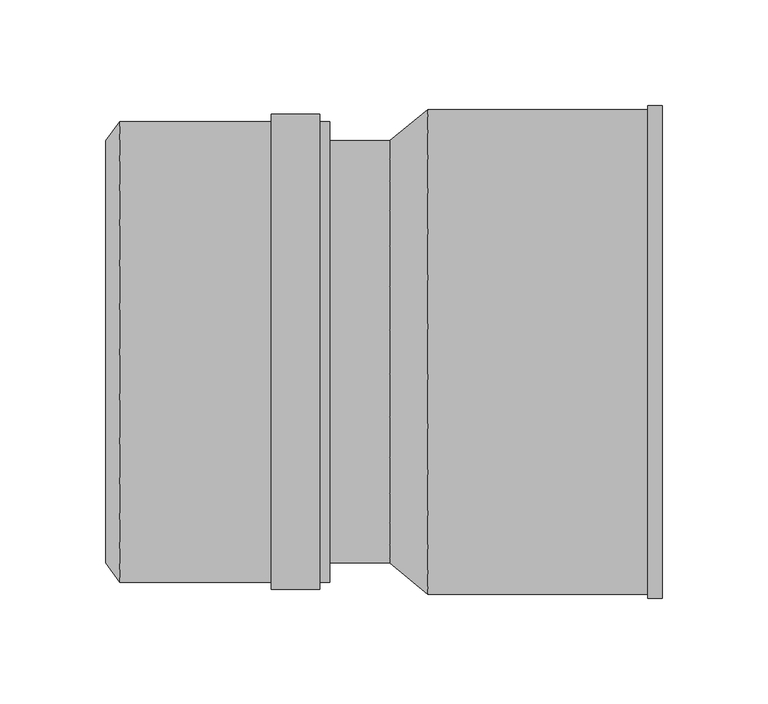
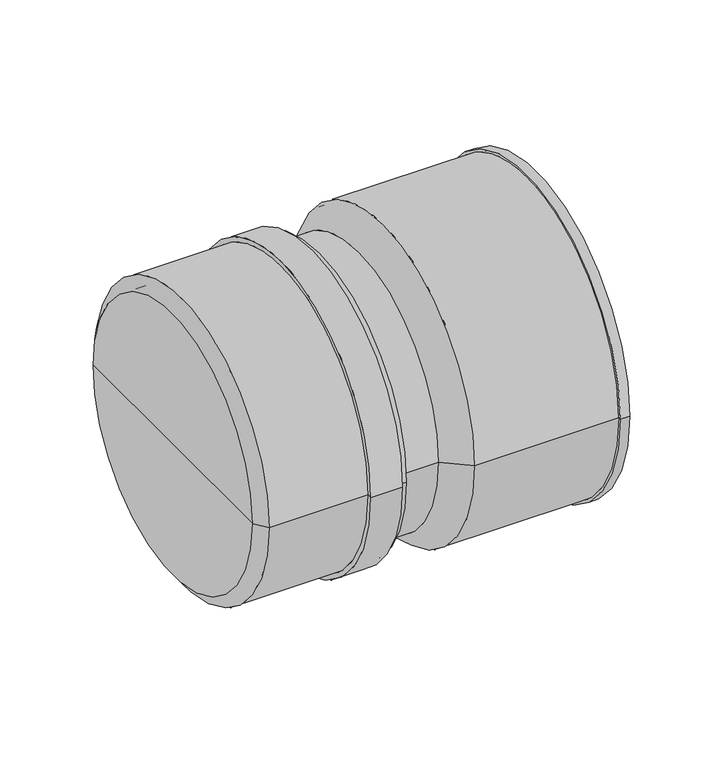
"""IFC4 building model written with IfcOpenShell, lengths in millimetres: pipe fitting geometry, pf_KGUG : pf_KGUG."""

from ifc_helpers import new_model, si_unit, point, frame, origin, origin_2d, place, context, project, spatial, polyline, circle_curve, trimmed, segment, composite_curve, outline, extrude, source, transform, mapped, element, save
from ifc_brep_helpers import plane_surface, cylinder_surface, revolved_surface, advanced_brep


def pipe_fitting_e1511a6a(model_context):
    return source(origin(), model_context, "Body", "SolidModel", [
        advanced_brep(
        [(-134.4, -100.0, 0.0), (-134.4, 100.0, 0.0), (-127.7, 109.1, 0.0), (-127.7, -109.1, 0.0), (-134.4, 0.0, 0.0), (-28.4, -109.1, 0.0), (-28.4, 109.1, 0.0), (-28.4, 100.0, 0.0), (-28.4, -100.0, 0.0), (-33.2, -109.1, 0.0), (-33.2, 109.1, 0.0), (-33.2, -112.5, 0.0), (-33.2, 112.5, 0.0), (-56.0, -112.5, 0.0), (-56.0, 112.5, 0.0), (-56.0, -109.1, 0.0), (-56.0, 109.1, 0.0), (-127.7, -100.0, 0.0), (-127.7, 100.0, 0.0), (-127.7, 0.0, 0.0)],
        [
            (0, 1, circle_curve(frame((-134.4, 0.0, 0.0), z_axis=(1.0, 0.0, 0.0), x_axis=(0.0, 1.0, 0.0)), 100.0)),
            (1, 2),
            (2, 3, circle_curve(frame((-127.7, 0.0, 0.0), z_axis=(-1.0, 0.0, 0.0), x_axis=(0.0, 1.0, 0.0)), 109.1)),
            (3, 0),
            (1, 0, circle_curve(frame((-134.4, 0.0, 0.0), z_axis=(1.0, 0.0, 0.0), x_axis=(0.0, 1.0, 0.0)), 100.0)),
            (3, 2, circle_curve(frame((-127.7, 0.0, 0.0), z_axis=(-1.0, 0.0, 0.0), x_axis=(0.0, 1.0, 0.0)), 109.1)),
            (4, 1),
            (0, 4),
            (5, 6, circle_curve(frame((-28.4, 0.0, 0.0), z_axis=(1.0, 0.0, 0.0), x_axis=(0.0, 1.0, 0.0)), 109.1)),
            (6, 7),
            (7, 8, circle_curve(frame((-28.4, 0.0, 0.0), z_axis=(-1.0, 0.0, 0.0), x_axis=(0.0, 1.0, 0.0)), 100.0)),
            (8, 5),
            (6, 5, circle_curve(frame((-28.4, 0.0, 0.0), z_axis=(1.0, 0.0, 0.0), x_axis=(0.0, 1.0, 0.0)), 109.1)),
            (8, 7, circle_curve(frame((-28.4, 0.0, 0.0), z_axis=(-1.0, 0.0, 0.0), x_axis=(0.0, 1.0, 0.0)), 100.0)),
            (9, 10, circle_curve(frame((-33.2, 0.0, 0.0), z_axis=(1.0, 0.0, 0.0), x_axis=(0.0, 1.0, 0.0)), 109.1)),
            (10, 6),
            (5, 9),
            (10, 9, circle_curve(frame((-33.2, 0.0, 0.0), z_axis=(1.0, 0.0, 0.0), x_axis=(0.0, 1.0, 0.0)), 109.1)),
            (11, 12, circle_curve(frame((-33.2, 0.0, 0.0), z_axis=(1.0, 0.0, 0.0), x_axis=(0.0, 1.0, 0.0)), 112.5)),
            (12, 10),
            (9, 11),
            (12, 11, circle_curve(frame((-33.2, 0.0, 0.0), z_axis=(1.0, 0.0, 0.0), x_axis=(0.0, 1.0, 0.0)), 112.5)),
            (13, 14, circle_curve(frame((-56.0, 0.0, 0.0), z_axis=(1.0, 0.0, 0.0), x_axis=(0.0, 1.0, 0.0)), 112.5)),
            (14, 12),
            (11, 13),
            (14, 13, circle_curve(frame((-56.0, 0.0, 0.0), z_axis=(1.0, 0.0, 0.0), x_axis=(0.0, 1.0, 0.0)), 112.5)),
            (15, 16, circle_curve(frame((-56.0, 0.0, 0.0), z_axis=(1.0, 0.0, 0.0), x_axis=(0.0, 1.0, 0.0)), 109.1)),
            (16, 14),
            (13, 15),
            (16, 15, circle_curve(frame((-56.0, 0.0, 0.0), z_axis=(1.0, 0.0, 0.0), x_axis=(0.0, 1.0, 0.0)), 109.1)),
            (2, 16),
            (15, 3),
            (17, 18, circle_curve(frame((-127.7, 0.0, 0.0), z_axis=(1.0, 0.0, 0.0), x_axis=(0.0, 1.0, 0.0)), 100.0)),
            (18, 19),
            (19, 17),
            (18, 17, circle_curve(frame((-127.7, 0.0, 0.0), z_axis=(1.0, 0.0, 0.0), x_axis=(0.0, 1.0, 0.0)), 100.0)),
            (7, 18),
            (17, 8),
        ],
        [
            revolved_surface(polyline([(-127.7, 109.1, 0.0), (-134.4, 100.0, 0.0)]), (-134.4, 0.0, 0.0), (-1.0, 0.0, 0.0)),
            plane_surface(frame((-134.4, 0.0, 0.0), z_axis=(-1.0, 0.0, 0.0), x_axis=(0.0, 1.0, 0.0))),
            plane_surface(frame((-28.4, 0.0, 0.0), z_axis=(1.0, 0.0, 0.0), x_axis=(0.0, 1.0, 0.0))),
            cylinder_surface(frame((-134.4, 0.0, 0.0), z_axis=(-1.0, 0.0, 0.0), x_axis=(0.0, 1.0, 0.0)), 109.1),
            plane_surface(frame((-33.2, 0.0, 0.0), z_axis=(1.0, 0.0, 0.0), x_axis=(0.0, 1.0, 0.0))),
            cylinder_surface(frame((-134.4, 0.0, 0.0), z_axis=(-1.0, 0.0, 0.0), x_axis=(0.0, 1.0, 0.0)), 112.5),
            plane_surface(frame((-56.0, 0.0, 0.0), z_axis=(-1.0, 0.0, 0.0), x_axis=(0.0, 1.0, 0.0))),
            plane_surface(frame((-127.7, 0.0, 0.0), z_axis=(1.0, 0.0, 0.0), x_axis=(0.0, 1.0, 0.0))),
            revolved_surface(polyline([(-127.7, 100.0, 0.0), (-28.400000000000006, 100.0, 0.0)]), (-134.4, 0.0, 0.0), (-1.0, 0.0, 0.0)),
        ],
        [
            (0, [[1, 2, 3, 4]]),
            (0, [[5, -4, 6, -2]]),
            (1, [[7, -1, 8]]),
            (1, [[-8, -5, -7]]),
            (2, [[9, 10, 11, 12]]),
            (2, [[13, -12, 14, -10]]),
            (3, [[15, 16, -9, 17]]),
            (3, [[18, -17, -13, -16]]),
            (4, [[19, 20, -15, 21]]),
            (4, [[22, -21, -18, -20]]),
            (5, [[23, 24, -19, 25]]),
            (5, [[26, -25, -22, -24]]),
            (6, [[27, 28, -23, 29]]),
            (6, [[30, -29, -26, -28]]),
            (3, [[-3, 31, -27, 32]]),
            (3, [[-6, -32, -30, -31]]),
            (7, [[33, 34, 35]]),
            (7, [[36, -35, -34]]),
            (8, [[-11, 37, -33, 38]]),
            (8, [[-14, -38, -36, -37]]),
        ],
    ),
        extrude(outline(composite_curve([segment(trimmed(circle_curve(origin_2d(), 100.0), [point((-100.0, 0.0))], [point((100.0, 0.0))], False, "CARTESIAN"), True, "CONTINUOUS"), segment(trimmed(circle_curve(origin_2d(), 100.0), [point((100.0, 0.0))], [point((-100.0, 0.0))], False, "CARTESIAN"), True, "CONTINUOUS")], self_intersect=False)), frame((-28.4, 0.0, 0.0), z_axis=(1.0, 0.0, 0.0), x_axis=(0.0, 1.0, 0.0)), (0.0, 0.0, 1.0), 28.4),
        advanced_brep(
        [(129.0, -113.0, 0.0), (129.0, 113.0, 0.0), (17.9, 113.0, 0.0), (17.9, -113.0, 0.0), (129.0, -116.6, 0.0), (129.0, 116.6, 0.0), (17.9, -114.8, 0.0), (17.9, 114.8, 0.0), (122.0184027, 114.8, 0.0), (122.0184027, -114.8, 0.0), (0.0, -100.0, 0.0), (0.0, 100.0, 0.0), (0.0, 0.0, 0.0), (122.0184027, 116.6, 0.0), (122.0184027, -116.6, 0.0), (17.9, 0.0, 0.0)],
        [
            (0, 1, circle_curve(frame((129.0, 0.0, 0.0), z_axis=(1.0, 0.0, 0.0), x_axis=(0.0, 1.0, 0.0)), 113.0)),
            (1, 2),
            (2, 3, circle_curve(frame((17.9, 0.0, 0.0), z_axis=(-1.0, 0.0, 0.0), x_axis=(0.0, 1.0, 0.0)), 113.0)),
            (3, 0),
            (4, 5, circle_curve(frame((129.0, 0.0, 0.0), z_axis=(1.0, 0.0, 0.0), x_axis=(0.0, 1.0, 0.0)), 116.6)),
            (5, 1),
            (0, 4),
            (6, 7, circle_curve(frame((17.9, 0.0, 0.0), z_axis=(1.0, 0.0, 0.0), x_axis=(0.0, 1.0, 0.0)), 114.8)),
            (7, 8),
            (8, 9, circle_curve(frame((122.0184027, 0.0, 0.0), z_axis=(-1.0, 0.0, 0.0), x_axis=(0.0, 1.0, 0.0)), 114.8)),
            (9, 6),
            (10, 11, circle_curve(frame((0.0, 0.0, 0.0), z_axis=(1.0, 0.0, 0.0), x_axis=(0.0, 1.0, 0.0)), 100.0)),
            (11, 7),
            (6, 10),
            (12, 11),
            (10, 12),
            (8, 13),
            (13, 14, circle_curve(frame((122.0184027, 0.0, 0.0), z_axis=(-1.0, 0.0, 0.0), x_axis=(0.0, 1.0, 0.0)), 116.6)),
            (14, 9),
            (1, 0, circle_curve(frame((129.0, 0.0, 0.0), z_axis=(1.0, 0.0, 0.0), x_axis=(0.0, 1.0, 0.0)), 113.0)),
            (3, 2, circle_curve(frame((17.9, 0.0, 0.0), z_axis=(-1.0, 0.0, 0.0), x_axis=(0.0, 1.0, 0.0)), 113.0)),
            (5, 4, circle_curve(frame((129.0, 0.0, 0.0), z_axis=(1.0, 0.0, 0.0), x_axis=(0.0, 1.0, 0.0)), 116.6)),
            (13, 5),
            (4, 14),
            (13, 14, circle_curve(frame((122.0184027, 0.0, 0.0), z_axis=(1.0, 0.0, 0.0), x_axis=(0.0, 1.0, 0.0)), 116.6)),
            (8, 9, circle_curve(frame((122.0184027, 0.0, 0.0), z_axis=(1.0, 0.0, 0.0), x_axis=(0.0, 1.0, 0.0)), 114.8)),
            (7, 6, circle_curve(frame((17.9, 0.0, 0.0), z_axis=(1.0, 0.0, 0.0), x_axis=(0.0, 1.0, 0.0)), 114.8)),
            (11, 10, circle_curve(frame((0.0, 0.0, 0.0), z_axis=(1.0, 0.0, 0.0), x_axis=(0.0, 1.0, 0.0)), 100.0)),
            (2, 15),
            (15, 3),
        ],
        [
            revolved_surface(polyline([(17.900000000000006, 113.0, 0.0), (129.0, 113.0, 0.0)]), (135.0, 0.0, 0.0), (-1.0, 0.0, 0.0)),
            plane_surface(frame((129.0, 0.0, 0.0), z_axis=(1.0, 0.0, 0.0), x_axis=(0.0, 1.0, 0.0))),
            cylinder_surface(frame((135.0, 0.0, 0.0), z_axis=(-1.0, 0.0, 0.0), x_axis=(0.0, 1.0, 0.0)), 114.8),
            revolved_surface(polyline([(17.9, 114.8, 0.0), (0.0, 100.0, 0.0)]), (135.0, 0.0, 0.0), (-1.0, 0.0, 0.0)),
            plane_surface(frame((0.0, 0.0, 0.0), z_axis=(-1.0, 0.0, 0.0), x_axis=(0.0, 1.0, 0.0))),
            plane_surface(frame((122.0184027, 0.0, 0.0), z_axis=(-1.0, 0.0, 0.0), x_axis=(0.0, 1.0, 0.0))),
            cylinder_surface(frame((135.0, 0.0, 0.0), z_axis=(-1.0, 0.0, 0.0), x_axis=(0.0, 1.0, 0.0)), 116.6),
            plane_surface(frame((17.9, 0.0, 0.0), z_axis=(1.0, 0.0, 0.0), x_axis=(0.0, 1.0, 0.0))),
        ],
        [
            (0, [[1, 2, 3, 4]]),
            (1, [[5, 6, -1, 7]]),
            (2, [[8, 9, 10, 11]]),
            (3, [[12, 13, -8, 14]]),
            (4, [[15, -12, 16]]),
            (5, [[-10, 17, 18, 19]]),
            (0, [[20, -4, 21, -2]]),
            (1, [[22, -7, -20, -6]]),
            (6, [[-18, 23, -5, 24]]),
            (6, [[25, -24, -22, -23]]),
            (5, [[26, -19, -25, -17]]),
            (2, [[27, -11, -26, -9]]),
            (3, [[28, -14, -27, -13]]),
            (4, [[-16, -28, -15]]),
            (7, [[-3, 29, 30]]),
            (7, [[-21, -30, -29]]),
        ],
    ),
    ])


if __name__ == "__main__":
    model = new_model("IFC4")
    model_context = context("Model", 3, world=origin())
    ifc_project = project(units=[si_unit("LENGTHUNIT", "METRE", prefix="MILLI")], contexts=[model_context])
    site = spatial("IfcSite", under=ifc_project)
    building = spatial("IfcBuilding", under=site)
    placement = place(None, origin())
    pipe_fitting_shape = pipe_fitting_e1511a6a(model_context)
    element("IfcPipeFitting", 1, ObjectType="pf_KGUG : pf_KGUG", at=placement, inside=building, context=model_context, shape_type="MappedRepresentation", body=[
        mapped(pipe_fitting_shape, transform((0.0, 0.0, 0.0), x_axis=(1.0, 0.0, 0.0), y_axis=(0.0, 1.0, 0.0), z_axis=(0.0, 0.0, 1.0))),
    ])
    save(model, "model.ifc")
